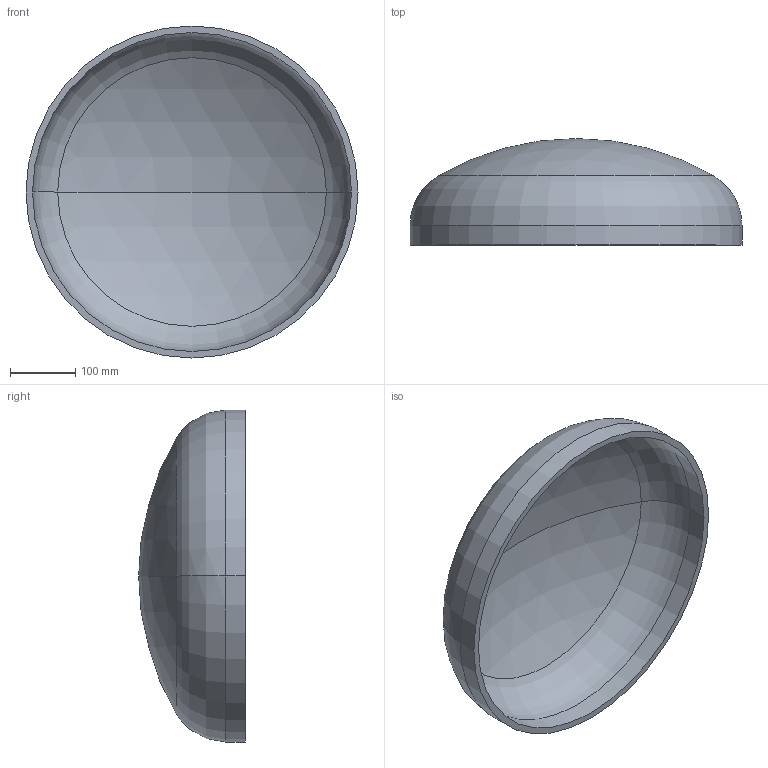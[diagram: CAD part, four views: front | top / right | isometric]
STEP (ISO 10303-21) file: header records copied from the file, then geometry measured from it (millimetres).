
FILE_DESCRIPTION (( 'STEP AP203' ), '1' );
FILE_NAME ('DIN 28013 Korbbogenform_-_Boden DIN 28013 - 508 x 30 - I - s=10.step', '2016-07-01T07:52:15', ( '' ), ( '' ), 'SwSTEP 2.0', 'SolidWorks 2013', '' );
FILE_SCHEMA (( 'CONFIG_CONTROL_DESIGN' ));
Length unit declared in the file: millimetre
Products named in the file (1): DIN 28013 Korbbogenform_-_Boden DIN 28013 - 508 x 30 - I - s=10
Bounding box: 508 x 163.11 x 508 mm (x, y, z)
Volume: 3203271.1 mm3; surface area: 656508.6 mm2
Topology: 1 solids, 1 shells, 13 faces, 24 edges, 14 vertices
Faces by surface type: torus 4, cylinder 4, sphere 4, plane 1
Entity records: 407 total; most frequent: DIRECTION 72, CARTESIAN_POINT 52, ORIENTED_EDGE 48, AXIS2_PLACEMENT_3D 34, EDGE_CURVE 24, CIRCLE 20, VERTEX_POINT 14, EDGE_LOOP 14
